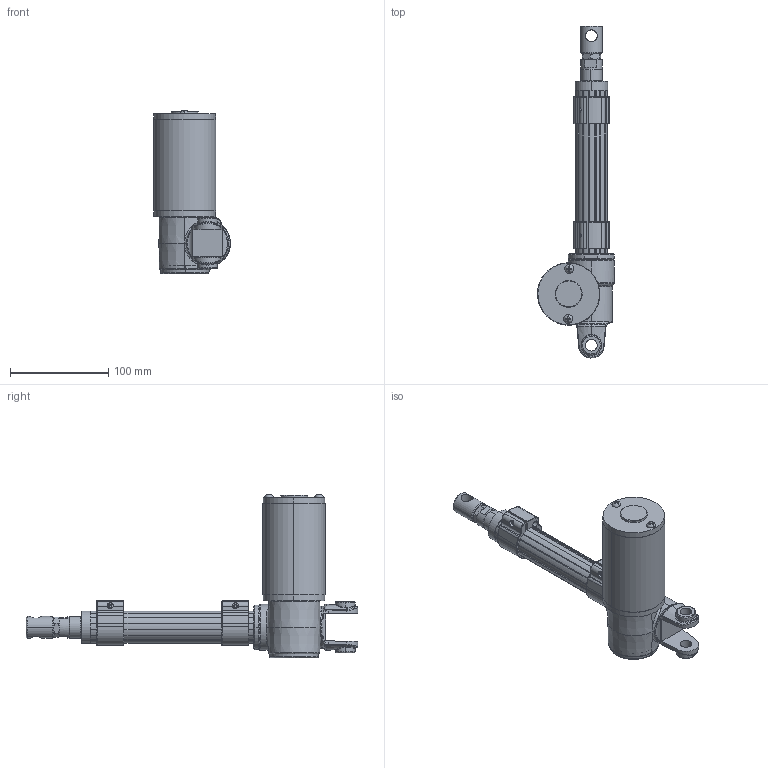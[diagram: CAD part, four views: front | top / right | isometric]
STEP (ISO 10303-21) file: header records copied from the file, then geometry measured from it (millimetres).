
FILE_DESCRIPTION (( 'STEP AP203' ), '1' );
FILE_NAME ('ID13-100.STEP', '2014-06-18T08:47:52', ( '' ), ( '' ), 'SwSTEP 2.0', 'SolidWorks 2012', '' );
FILE_SCHEMA (( 'CONFIG_CONTROL_DESIGN' ));
Length unit declared in the file: millimetre
Products named in the file (3): ID13-100; ID13-tuby; ID13-Body
Assembly tree (2 placements, depth 2):
  ID13-100
    ID13-Body
    ID13-tuby
Bounding box: 78.37 x 337.99 x 166.43 mm (x, y, z)
Surface area: 122048.5 mm2 (no closed solid volume)
Topology: 0 solids, 15 shells, 399 faces, 1082 edges, 689 vertices
Faces by surface type: cylinder 133, bspline 116, plane 105, cone 45
Entity records: 19110 total; most frequent: CARTESIAN_POINT 9583, ORIENTED_EDGE 1959, DIRECTION 1820, EDGE_CURVE 1082, AXIS2_PLACEMENT_3D 718, VERTEX_POINT 689, CIRCLE 430, EDGE_LOOP 428
